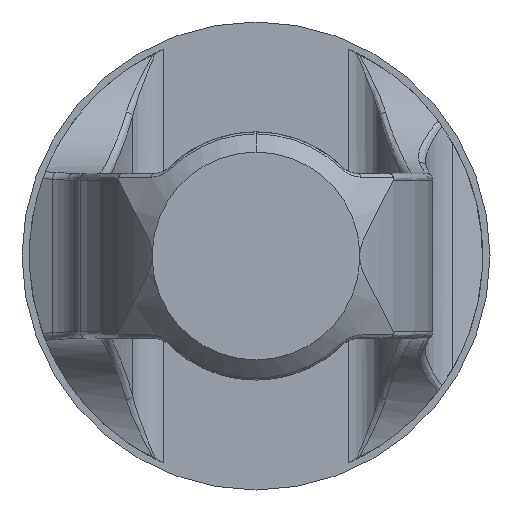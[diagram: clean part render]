
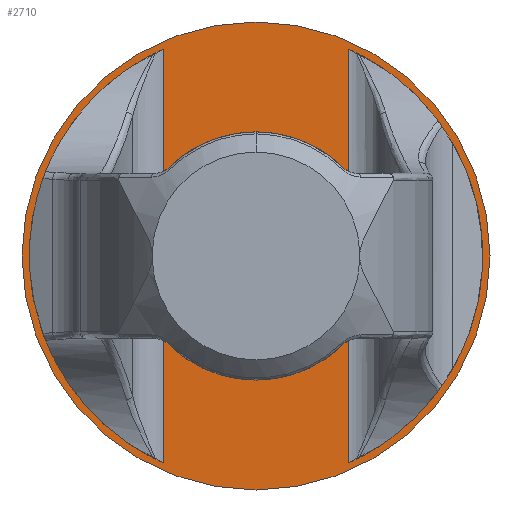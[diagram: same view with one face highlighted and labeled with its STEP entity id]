
A CAD part, front view. The second image highlights one B-rep face of the part: STEP entity #2710.
In plain terms, the highlighted planar face has unit normal (0, -1, 0).
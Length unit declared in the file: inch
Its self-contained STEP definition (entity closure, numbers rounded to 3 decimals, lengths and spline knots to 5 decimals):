
#172 = AXIS2_PLACEMENT_3D ( 'NONE', #386, #368, #348 ) ;
#180 = DIRECTION ( 'NONE',  ( 0., 1., 0. ) ) ;
#210 = FACE_BOUND ( 'NONE', #5067, .T. ) ;
#348 = DIRECTION ( 'NONE',  ( 0., 0., -1. ) ) ;
#368 = DIRECTION ( 'NONE',  ( 0., -1., 0. ) ) ;
#380 = LINE ( 'NONE', #764, #2814 ) ;
#386 = CARTESIAN_POINT ( 'NONE',  ( 0., 1.09586, 0. ) ) ;
#421 = ORIENTED_EDGE ( 'NONE', *, *, #495, .F. ) ;
#484 = ORIENTED_EDGE ( 'NONE', *, *, #616, .F. ) ;
#495 = EDGE_CURVE ( 'NONE', #4740, #3296, #2486, .T. ) ;
#540 = ORIENTED_EDGE ( 'NONE', *, *, #4057, .F. ) ;
#616 = EDGE_CURVE ( 'NONE', #2404, #807, #1101, .T. ) ;
#686 = EDGE_LOOP ( 'NONE', ( #484, #540 ) ) ;
#764 = CARTESIAN_POINT ( 'NONE',  ( 0.84031, 1.09586, 1.45735 ) ) ;
#779 = CARTESIAN_POINT ( 'NONE',  ( -0.84031, 1.09586, 1.45735 ) ) ;
#807 = VERTEX_POINT ( 'NONE', #1209 ) ;
#1012 = CARTESIAN_POINT ( 'NONE',  ( -0.84031, 1.09586, -1.87534 ) ) ;
#1101 = CIRCLE ( 'NONE', #1786, 2.121 ) ;
#1181 = VERTEX_POINT ( 'NONE', #1012 ) ;
#1209 = CARTESIAN_POINT ( 'NONE',  ( 2.121, 1.09586, 0. ) ) ;
#1294 = EDGE_CURVE ( 'NONE', #1181, #4627, #3946, .T. ) ;
#1493 = CARTESIAN_POINT ( 'NONE',  ( 0.84031, 1.09586, 1.87534 ) ) ;
#1580 = CARTESIAN_POINT ( 'NONE',  ( 0., 1.09586, 0. ) ) ;
#1589 = CARTESIAN_POINT ( 'NONE',  ( -2.121, 1.09586, 0. ) ) ;
#1700 = EDGE_LOOP ( 'NONE', ( #1874, #1749 ) ) ;
#1749 = ORIENTED_EDGE ( 'NONE', *, *, #1294, .F. ) ;
#1786 = AXIS2_PLACEMENT_3D ( 'NONE', #3809, #3724, #3737 ) ;
#1874 = ORIENTED_EDGE ( 'NONE', *, *, #3346, .F. ) ;
#1964 = DIRECTION ( 'NONE',  ( 0., 0., -1. ) ) ;
#1975 = AXIS2_PLACEMENT_3D ( 'NONE', #2557, #180, #2976 ) ;
#2046 = DIRECTION ( 'NONE',  ( -1., 0., 0. ) ) ;
#2325 = VECTOR ( 'NONE', #3552, 39.37008 ) ;
#2369 = DIRECTION ( 'NONE',  ( 0., 1., 0. ) ) ;
#2404 = VERTEX_POINT ( 'NONE', #1589 ) ;
#2486 = CIRCLE ( 'NONE', #172, 2.055 ) ;
#2557 = CARTESIAN_POINT ( 'NONE',  ( 0., 1.09586, 0. ) ) ;
#2628 = CARTESIAN_POINT ( 'NONE',  ( 0.84031, 1.09586, -1.87534 ) ) ;
#2710 = ADVANCED_FACE ( 'NONE', ( #210, #3019, #3953 ), #2772, .F. ) ;
#2772 = PLANE ( 'NONE',  #4599 ) ;
#2814 = VECTOR ( 'NONE', #4714, 39.37008 ) ;
#2976 = DIRECTION ( 'NONE',  ( -1., 0., 0. ) ) ;
#3019 = FACE_OUTER_BOUND ( 'NONE', #686, .T. ) ;
#3134 = CIRCLE ( 'NONE', #4896, 2.055 ) ;
#3296 = VERTEX_POINT ( 'NONE', #1493 ) ;
#3346 = EDGE_CURVE ( 'NONE', #4627, #1181, #3134, .T. ) ;
#3379 = EDGE_CURVE ( 'NONE', #3296, #4740, #380, .T. ) ;
#3552 = DIRECTION ( 'NONE',  ( 0., 0., 1. ) ) ;
#3724 = DIRECTION ( 'NONE',  ( 0., 1., 0. ) ) ;
#3737 = DIRECTION ( 'NONE',  ( -1., 0., 0. ) ) ;
#3809 = CARTESIAN_POINT ( 'NONE',  ( 0., 1.09586, 0. ) ) ;
#3863 = CIRCLE ( 'NONE', #1975, 2.121 ) ;
#3946 = LINE ( 'NONE', #779, #2325 ) ;
#3953 = FACE_BOUND ( 'NONE', #1700, .T. ) ;
#4057 = EDGE_CURVE ( 'NONE', #807, #2404, #3863, .T. ) ;
#4332 = DIRECTION ( 'NONE',  ( 0., -1., 0. ) ) ;
#4599 = AXIS2_PLACEMENT_3D ( 'NONE', #4813, #2369, #2046 ) ;
#4627 = VERTEX_POINT ( 'NONE', #4961 ) ;
#4714 = DIRECTION ( 'NONE',  ( 0., 0., -1. ) ) ;
#4740 = VERTEX_POINT ( 'NONE', #2628 ) ;
#4813 = CARTESIAN_POINT ( 'NONE',  ( -1.45735, 1.09586, 1.45735 ) ) ;
#4896 = AXIS2_PLACEMENT_3D ( 'NONE', #1580, #4332, #1964 ) ;
#4961 = CARTESIAN_POINT ( 'NONE',  ( -0.84031, 1.09586, 1.87534 ) ) ;
#5067 = EDGE_LOOP ( 'NONE', ( #421, #5115 ) ) ;
#5115 = ORIENTED_EDGE ( 'NONE', *, *, #3379, .F. ) ;
